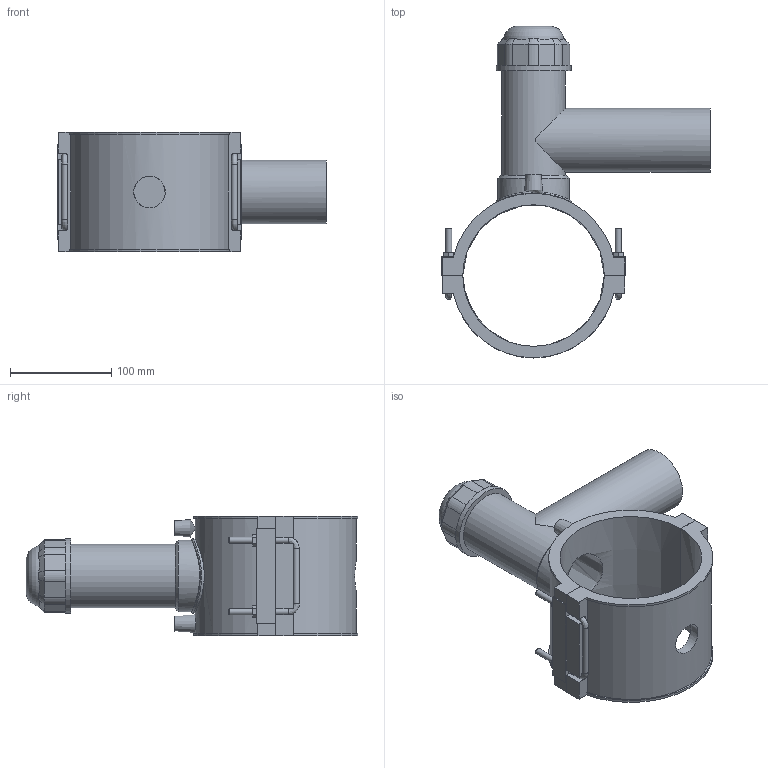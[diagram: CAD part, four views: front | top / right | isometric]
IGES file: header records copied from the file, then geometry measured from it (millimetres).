
Global section: file name: 496304140063.ipt; native system: Autodesk Inventor 2015; preprocessor: unknown; author: KIM; date: 20190124.131004; units: millimetre
Bounding box: 266 x 328.4 x 118 mm (x, y, z)
Volume: 1077525.1 mm3; surface area: 257007.9 mm2
Topology: 2 solids, 2 shells, 191 faces, 490 edges, 319 vertices
Faces by surface type: plane 118, cylinder 33, revolution 20, cone 15, bspline 5
Full cylindrical faces by diameter (mm): 4 x2, 6 x10, 63 x1, 63.07 x1, 70.49 x1, 74.2 x2
